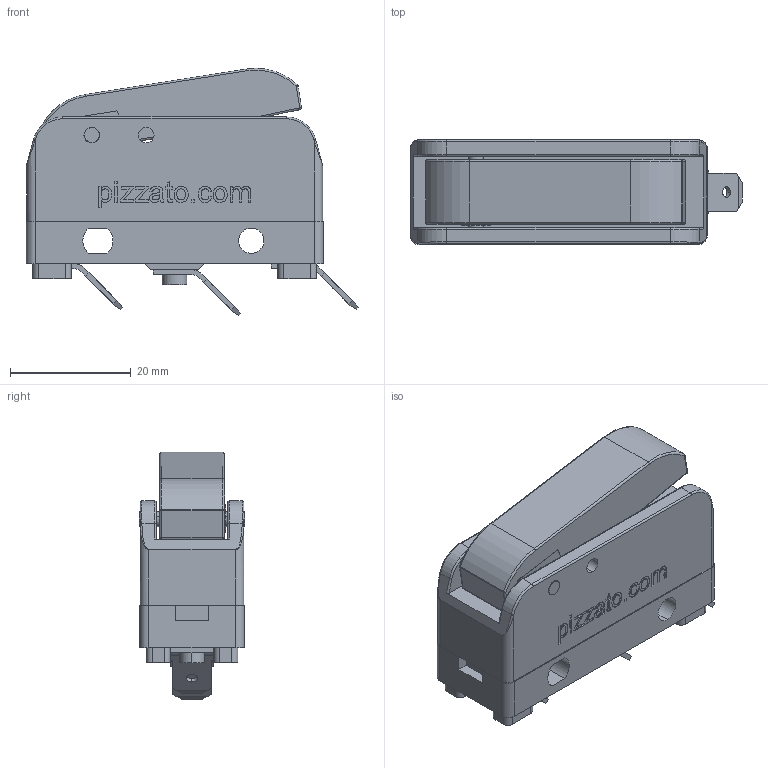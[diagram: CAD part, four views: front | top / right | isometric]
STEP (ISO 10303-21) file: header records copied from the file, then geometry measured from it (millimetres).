
FILE_DESCRIPTION (( 'STEP AP214' ), '1' );
FILE_NAME ('ZF_STEP_MF_49_.step', '2019-08-27T09:23:28', ( 'Pizzato Elettrica' ), ( 'Microsoft' ), 'SwSTEP 2.0', 'SolidWorks 2014', '' );
FILE_SCHEMA (( 'AUTOMOTIVE_DESIGN' ));
Length unit declared in the file: millimetre
Products named in the file (6): Pizzato_tasto_MS_49_25; Pizzato_Perno Leva; MF Base 180+181; Pizzato_Faston_121; Pizzato_base 180+181_MF; ZF_STEP_MF_49_
Assembly tree (7 placements, depth 3):
  ZF_STEP_MF_49_
    MF Base 180+181
      Pizzato_base 180+181_MF
      Pizzato_Faston_121  x3
    Pizzato_Perno Leva
    Pizzato_tasto_MS_49_25
Bounding box: 54.97 x 17.4 x 40.96 mm (x, y, z)
Volume: 20429.1 mm3; surface area: 10725.7 mm2
Topology: 7 solids, 7 shells, 432 faces, 1109 edges, 716 vertices
Faces by surface type: plane 211, cylinder 126, bspline 73, torus 12, sphere 10
Entity records: 15380 total; most frequent: CARTESIAN_POINT 6125, ORIENTED_EDGE 1970, DIRECTION 1687, EDGE_CURVE 985, VERTEX_POINT 636, VECTOR 603, LINE 603, AXIS2_PLACEMENT_3D 542
